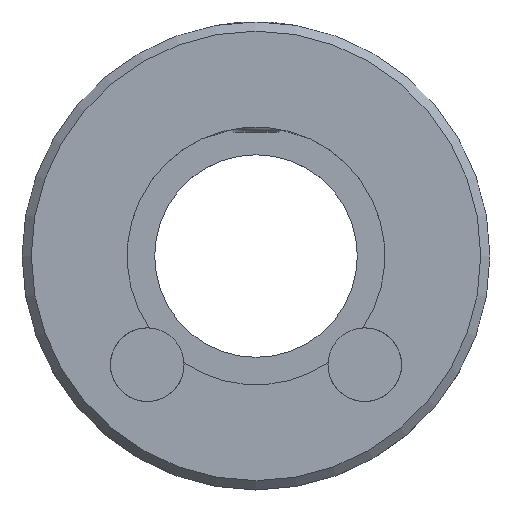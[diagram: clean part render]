
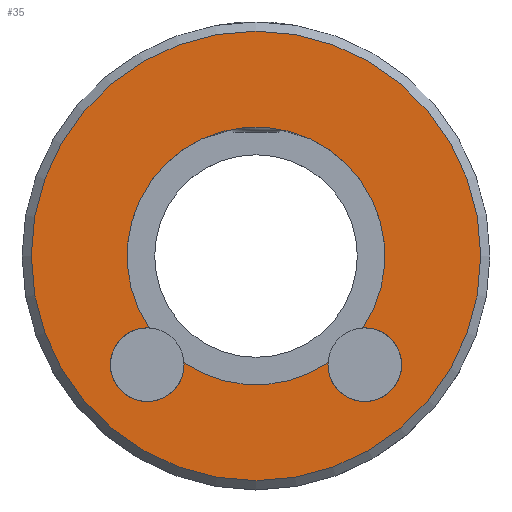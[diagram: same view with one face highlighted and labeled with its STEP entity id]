
A CAD part, top view. The second image highlights one B-rep face of the part: STEP entity #35.
In plain terms, the highlighted planar face has unit normal (0, 0, 1).
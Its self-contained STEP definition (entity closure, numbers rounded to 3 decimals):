
#5 = FACE_BOUND ( 'NONE', #133, .T. ) ;
#35 = ADVANCED_FACE ( 'NONE', ( #42, #5 ), #389, .T. ) ;
#42 = FACE_OUTER_BOUND ( 'NONE', #128, .T. ) ;
#47 = CARTESIAN_POINT ( 'NONE',  ( -0.837, 9.256, 1.612 ) ) ;
#61 = ORIENTED_EDGE ( 'NONE', *, *, #487, .F. ) ;
#62 = ORIENTED_EDGE ( 'NONE', *, *, #485, .F. ) ;
#63 = ORIENTED_EDGE ( 'NONE', *, *, #502, .F. ) ;
#67 = ORIENTED_EDGE ( 'NONE', *, *, #486, .F. ) ;
#81 = VERTEX_POINT ( 'NONE', #382 ) ;
#87 = VERTEX_POINT ( 'NONE', #383 ) ;
#91 = VERTEX_POINT ( 'NONE', #385 ) ;
#92 = VERTEX_POINT ( 'NONE', #380 ) ;
#128 = EDGE_LOOP ( 'NONE', ( #143 ) ) ;
#133 = EDGE_LOOP ( 'NONE', ( #61, #62, #67, #63 ) ) ;
#143 = ORIENTED_EDGE ( 'NONE', *, *, #490, .T. ) ;
#146 = DIRECTION ( 'NONE',  ( 0., 0., 1. ) ) ;
#147 = DIRECTION ( 'NONE',  ( 1., 0., 0. ) ) ;
#216 = CARTESIAN_POINT ( 'NONE',  ( -0.837, 9.256, 1.612 ) ) ;
#217 = DIRECTION ( 'NONE',  ( 0., 0., 1. ) ) ;
#218 = DIRECTION ( 'NONE',  ( 1., 0., 0. ) ) ;
#230 = CARTESIAN_POINT ( 'NONE',  ( 11.363, 9.256, 1.612 ) ) ;
#270 = CARTESIAN_POINT ( 'NONE',  ( -0.837, 9.256, 1.612 ) ) ;
#311 = DIRECTION ( 'NONE',  ( 1., 0., 0. ) ) ;
#312 = DIRECTION ( 'NONE',  ( 0., 0., 1. ) ) ;
#313 = CARTESIAN_POINT ( 'NONE',  ( 5.067, 3.351, 1.612 ) ) ;
#315 = DIRECTION ( 'NONE',  ( 1., 0., 0. ) ) ;
#316 = DIRECTION ( 'NONE',  ( 0., 0., 1. ) ) ;
#317 = CARTESIAN_POINT ( 'NONE',  ( -6.742, 3.351, 1.612 ) ) ;
#320 = DIRECTION ( 'NONE',  ( 1., 0., 0. ) ) ;
#322 = DIRECTION ( 'NONE',  ( 0., 0., 1. ) ) ;
#323 = CARTESIAN_POINT ( 'NONE',  ( -0.837, 9.256, 1.612 ) ) ;
#380 = CARTESIAN_POINT ( 'NONE',  ( 3.069, 3.447, 1.612 ) ) ;
#382 = CARTESIAN_POINT ( 'NONE',  ( 4.971, 5.349, 1.612 ) ) ;
#383 = CARTESIAN_POINT ( 'NONE',  ( -6.646, 5.349, 1.612 ) ) ;
#385 = CARTESIAN_POINT ( 'NONE',  ( -4.744, 3.447, 1.612 ) ) ;
#386 = DIRECTION ( 'NONE',  ( 1., 0., 0. ) ) ;
#387 = DIRECTION ( 'NONE',  ( 0., 0., 1. ) ) ;
#389 = PLANE ( 'NONE',  #523 ) ;
#391 = CIRCLE ( 'NONE', #526, 7. ) ;
#392 = CIRCLE ( 'NONE', #527, 2. ) ;
#394 = CIRCLE ( 'NONE', #528, 2. ) ;
#397 = CIRCLE ( 'NONE', #529, 12.2 ) ;
#399 = CIRCLE ( 'NONE', #449, 7. ) ;
#418 = VERTEX_POINT ( 'NONE', #230 ) ;
#449 = AXIS2_PLACEMENT_3D ( 'NONE', #216, #217, #218 ) ;
#485 = EDGE_CURVE ( 'NONE', #91, #92, #391, .T. ) ;
#486 = EDGE_CURVE ( 'NONE', #87, #91, #392, .T. ) ;
#487 = EDGE_CURVE ( 'NONE', #92, #81, #394, .T. ) ;
#490 = EDGE_CURVE ( 'NONE', #418, #418, #397, .T. ) ;
#502 = EDGE_CURVE ( 'NONE', #81, #87, #399, .T. ) ;
#523 = AXIS2_PLACEMENT_3D ( 'NONE', #270, #387, #386 ) ;
#526 = AXIS2_PLACEMENT_3D ( 'NONE', #323, #322, #320 ) ;
#527 = AXIS2_PLACEMENT_3D ( 'NONE', #317, #316, #315 ) ;
#528 = AXIS2_PLACEMENT_3D ( 'NONE', #313, #312, #311 ) ;
#529 = AXIS2_PLACEMENT_3D ( 'NONE', #47, #146, #147 ) ;
